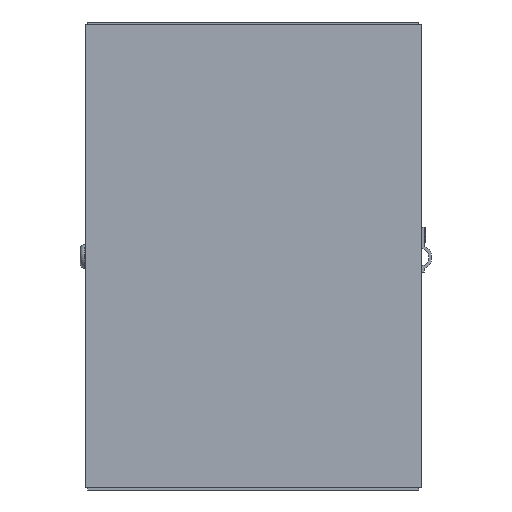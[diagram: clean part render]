
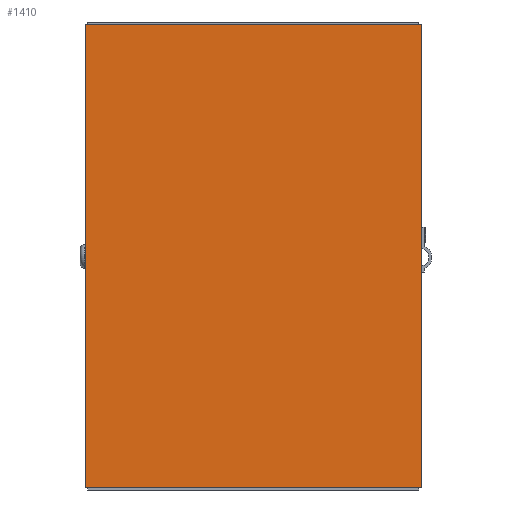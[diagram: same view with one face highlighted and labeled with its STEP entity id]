
A CAD part, front view. The second image highlights one B-rep face of the part: STEP entity #1410.
In plain terms, the highlighted planar face has unit normal (0, -1, 0).
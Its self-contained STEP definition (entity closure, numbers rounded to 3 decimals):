
#209 = EDGE_CURVE ( 'NONE', #14360, #12070, #39665, .T. ) ;
#1410 = ADVANCED_FACE ( 'NONE', ( #35636 ), #37236, .T. ) ;
#2674 = CARTESIAN_POINT ( 'NONE',  ( 2315.826, -140.134, -93.5 ) ) ;
#4139 = CARTESIAN_POINT ( 'NONE',  ( 2315.826, -140.134, 93.1 ) ) ;
#4670 = VERTEX_POINT ( 'NONE', #21347 ) ;
#7285 = VERTEX_POINT ( 'NONE', #35931 ) ;
#8632 = VECTOR ( 'NONE', #9226, 1000. ) ;
#8871 = LINE ( 'NONE', #11798, #41535 ) ;
#8933 = DIRECTION ( 'NONE',  ( 0., 0., -1. ) ) ;
#9226 = DIRECTION ( 'NONE',  ( 0., 0., 1. ) ) ;
#11240 = CARTESIAN_POINT ( 'NONE',  ( 2315.826, -140.134, -92.9 ) ) ;
#11798 = CARTESIAN_POINT ( 'NONE',  ( 2450.826, -140.134, -93.5 ) ) ;
#12027 = LINE ( 'NONE', #4139, #44705 ) ;
#12070 = VERTEX_POINT ( 'NONE', #17787 ) ;
#13186 = EDGE_CURVE ( 'NONE', #7285, #4670, #8871, .T. ) ;
#14360 = VERTEX_POINT ( 'NONE', #11240 ) ;
#14568 = CARTESIAN_POINT ( 'NONE',  ( 2315.826, -140.134, -92.9 ) ) ;
#17787 = CARTESIAN_POINT ( 'NONE',  ( 2315.826, -140.134, 93.1 ) ) ;
#18343 = EDGE_CURVE ( 'NONE', #12070, #4670, #12027, .T. ) ;
#20077 = DIRECTION ( 'NONE',  ( 0., -1., 0. ) ) ;
#20831 = ORIENTED_EDGE ( 'NONE', *, *, #13186, .T. ) ;
#21347 = CARTESIAN_POINT ( 'NONE',  ( 2450.826, -140.134, 93.1 ) ) ;
#21524 = DIRECTION ( 'NONE',  ( 1., 0., 0. ) ) ;
#24898 = DIRECTION ( 'NONE',  ( 1., 0., 0. ) ) ;
#25338 = AXIS2_PLACEMENT_3D ( 'NONE', #33442, #20077, #8933 ) ;
#26362 = VECTOR ( 'NONE', #24898, 1000. ) ;
#29006 = DIRECTION ( 'NONE',  ( 0., 0., 1. ) ) ;
#30713 = EDGE_LOOP ( 'NONE', ( #32975, #32885, #39505, #20831 ) ) ;
#32885 = ORIENTED_EDGE ( 'NONE', *, *, #209, .F. ) ;
#32975 = ORIENTED_EDGE ( 'NONE', *, *, #18343, .F. ) ;
#33442 = CARTESIAN_POINT ( 'NONE',  ( 2315.826, -140.134, -93.5 ) ) ;
#35636 = FACE_OUTER_BOUND ( 'NONE', #30713, .T. ) ;
#35931 = CARTESIAN_POINT ( 'NONE',  ( 2450.826, -140.134, -92.9 ) ) ;
#37236 = PLANE ( 'NONE',  #25338 ) ;
#38318 = EDGE_CURVE ( 'NONE', #14360, #7285, #43789, .T. ) ;
#39505 = ORIENTED_EDGE ( 'NONE', *, *, #38318, .T. ) ;
#39665 = LINE ( 'NONE', #2674, #8632 ) ;
#41535 = VECTOR ( 'NONE', #29006, 1000. ) ;
#43789 = LINE ( 'NONE', #14568, #26362 ) ;
#44705 = VECTOR ( 'NONE', #21524, 1000. ) ;
